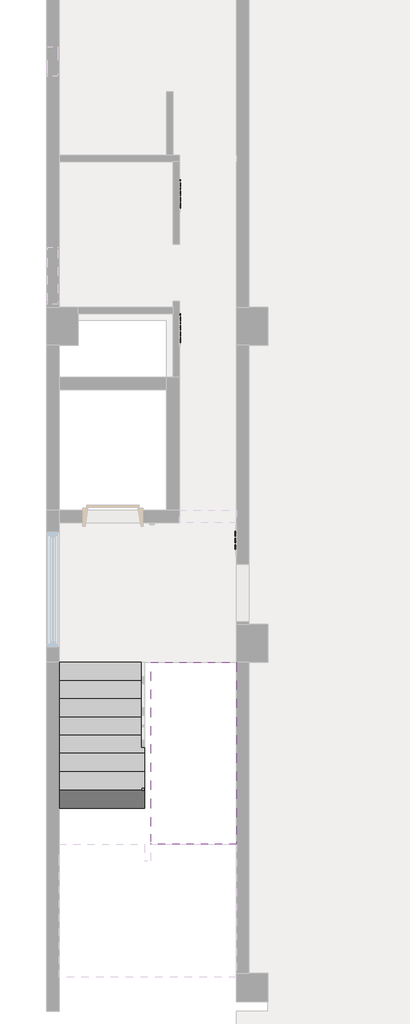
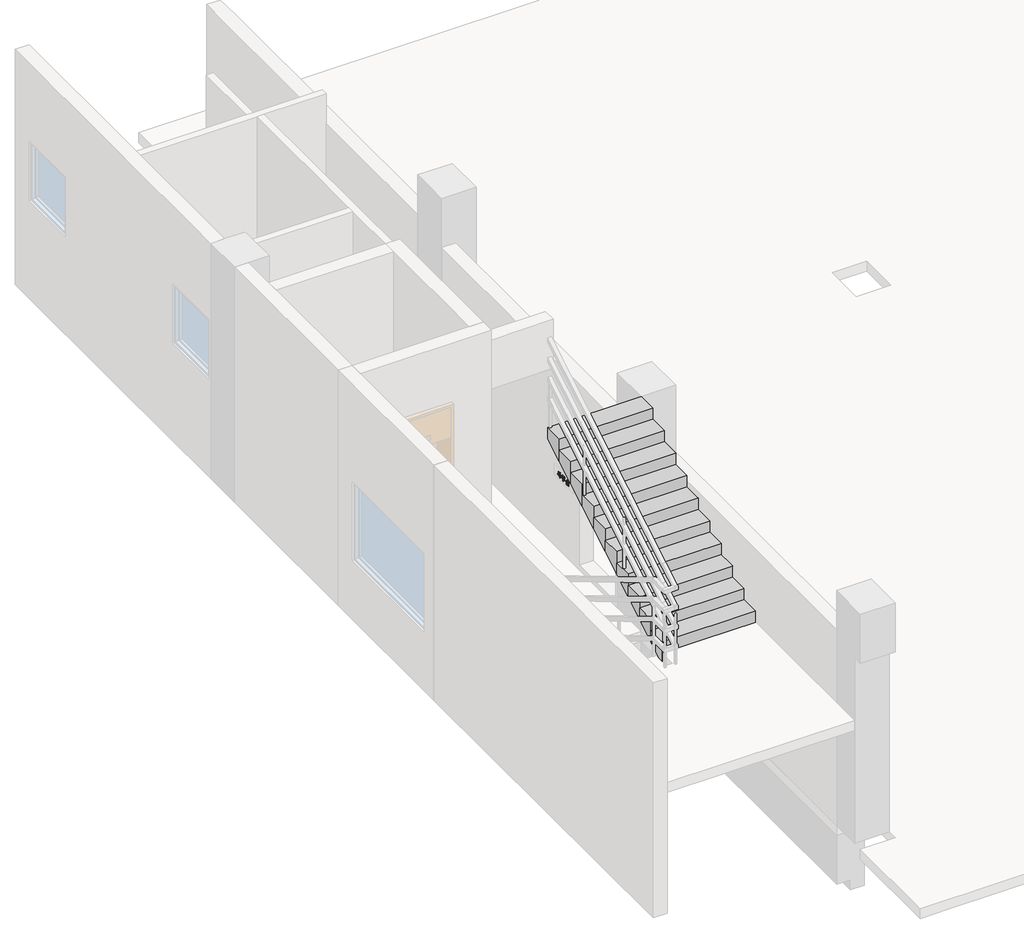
# One storey, part 3 of 3: 3 proxies, 2 stair flights.
"""IFC4 building model written with IfcOpenShell, lengths in millimetres."""

import ifcopenshell
import ifcopenshell.guid

model = None  # the IFC model being written
_history = None  # IfcOwnerHistory: only IFC2X3 demands one
_inside = {}  # id of a spatial element -> (the spatial element, [elements in it])
_under = {}  # id of a project, library or spatial element -> (it, [spatial elements below it])
_declared = {}  # id of a project -> (the project, [libraries it declares])
_typed = {}  # id of a type object -> (the type object, [elements of that type])
_made_of = {}  # id of a material, layer set ... -> (it, [elements and type objects made of it])


def new_model(schema):
    """Start an empty IFC model of exactly this schema.

    Asked for "IFC4X3", IfcOpenShell would pick the latest addendum, in which some entities
    have other attributes; the version numbers below select the first issue.
    IFC2X3 requires an IfcOwnerHistory on every rooted entity: one is made here for all.
    """
    global model, _history
    if schema == "IFC4X3":
        model = ifcopenshell.file(schema_version=(4, 3, 0, 0))
    else:
        model = ifcopenshell.file(schema=schema)
    _inside.clear()
    _under.clear()
    _declared.clear()
    _typed.clear()
    _made_of.clear()
    _history = None
    if model.schema == "IFC2X3":
        org = make("IfcOrganization", Name="unknown")
        user = make(
            "IfcPersonAndOrganization",
            ThePerson=make("IfcPerson", FamilyName="unknown"),
            TheOrganization=org,
        )
        app = make(
            "IfcApplication",
            ApplicationDeveloper=org,
            Version="unknown",
            ApplicationFullName="unknown",
            ApplicationIdentifier="unknown",
        )
        _history = make(
            "IfcOwnerHistory",
            OwningUser=user,
            OwningApplication=app,
            ChangeAction="ADDED",
            CreationDate=0,
        )
    return model


def make(cls, **values):
    """One entity of the class cls with the attributes given. An attribute that is None is left unset."""
    return model.create_entity(
        cls, **{name: value for name, value in values.items() if value is not None}
    )


def rooted(cls, **values):
    """An entity with a GlobalId (a new one), such as an element, a storey or a relation."""
    return make(cls, GlobalId=ifcopenshell.guid.new(), OwnerHistory=_history, **values)


def si_unit(unit_type, name, prefix=None):
    """IfcSIUnit, for example si_unit("LENGTHUNIT", "METRE", prefix="MILLI")."""
    return make("IfcSIUnit", UnitType=unit_type, Prefix=prefix, Name=name)


def assignment(units):
    """IfcUnitAssignment: the units of a project."""
    return None if units is None else make("IfcUnitAssignment", Units=units)


def point(xyz):
    """IfcCartesianPoint."""
    return None if xyz is None else make("IfcCartesianPoint", Coordinates=xyz)


def direction(xyz):
    """IfcDirection."""
    return None if xyz is None else make("IfcDirection", DirectionRatios=xyz)


def frame(location, z_axis=None, x_axis=None):
    """IfcAxis2Placement3D, a coordinate frame: its origin and axes. An axis left out is left unset."""
    return make(
        "IfcAxis2Placement3D",
        Location=point(location),
        Axis=direction(z_axis),
        RefDirection=direction(x_axis),
    )


def origin():
    """The frame at (0, 0, 0) with its axes left unset."""
    return frame((0.0, 0.0, 0.0))


def place(relative_to, where):
    """IfcLocalPlacement: puts the frame where relative to a parent placement (None: the world)."""
    return make(
        "IfcLocalPlacement", PlacementRelTo=relative_to, RelativePlacement=where
    )


def context(
    kind, dimensions, precision=None, world=None, true_north=None, identifier=None
):
    """IfcGeometricRepresentationContext, for example the 3D "Model" context."""
    return make(
        "IfcGeometricRepresentationContext",
        ContextIdentifier=identifier,
        ContextType=kind,
        CoordinateSpaceDimension=dimensions,
        Precision=precision,
        WorldCoordinateSystem=world,
        TrueNorth=true_north,
    )


def project(units=None, contexts=None):
    """IfcProject with its units and contexts."""
    return rooted(
        "IfcProject",
        Name="project",
        RepresentationContexts=contexts,
        UnitsInContext=assignment(units),
    )


def spatial(cls, under=None, at=None, **own):
    """A site, building, storey or space (cls), placed at a placement, below another one or the project."""
    s = rooted(cls, ObjectPlacement=at, **own)
    if under is not None:
        _under.setdefault(under.id(), (under, []))[1].append(s)
    return s


def polyline(points):
    """IfcPolyline through the points."""
    return make("IfcPolyline", Points=[point(p) for p in points])


def outline(outer, holes=None, kind="AREA"):
    """IfcArbitraryClosedProfileDef: a profile drawn as a closed curve; with holes, ...WithVoids."""
    if holes is None:
        return make("IfcArbitraryClosedProfileDef", ProfileType=kind, OuterCurve=outer)
    return make(
        "IfcArbitraryProfileDefWithVoids",
        ProfileType=kind,
        OuterCurve=outer,
        InnerCurves=holes,
    )


def extrude(swept, where, along, depth):
    """IfcExtrudedAreaSolid: the profile swept, set in the frame where, extruded along a direction by depth."""
    return make(
        "IfcExtrudedAreaSolid",
        SweptArea=swept,
        Position=where,
        ExtrudedDirection=direction(along),
        Depth=depth,
    )


def faces_of(points, faces, orient=None, outer=None):
    """IfcFace entities. A face is a list of loops; a loop is a list of indices into points, from 0.

    orient and outer hold one flag for each loop. By default every Orientation is true, the
    first loop of a face is its IfcFaceOuterBound and the others are IfcFaceBound.
    """
    made = []
    for i, loops in enumerate(faces):
        bounds = []
        for j, loop in enumerate(loops):
            is_outer = j == 0 if outer is None else outer[i][j]
            bounds.append(
                make(
                    "IfcFaceOuterBound" if is_outer else "IfcFaceBound",
                    Bound=make("IfcPolyLoop", Polygon=[points[k] for k in loop]),
                    Orientation=True if orient is None else orient[i][j],
                )
            )
        made.append(make("IfcFace", Bounds=bounds))
    return made


def faceted_brep(points, faces, orient=None, outer=None, voids=None):
    """IfcFacetedBrep: a solid bounded by flat faces; with voids (closed shells), ...WithVoids."""
    shared = [point(p) for p in points]
    hull = make("IfcClosedShell", CfsFaces=faces_of(shared, faces, orient, outer))
    if voids is None:
        return make("IfcFacetedBrep", Outer=hull)
    return make(
        "IfcFacetedBrepWithVoids",
        Outer=hull,
        Voids=[
            make(cls, CfsFaces=faces_of(shared, fs, o, b)) for cls, fs, o, b in voids
        ],
    )


def shape(context_of_items, identifier, shape_type, items):
    """IfcShapeRepresentation: the items that make up one representation, for example the "Body"."""
    return make(
        "IfcShapeRepresentation",
        ContextOfItems=context_of_items,
        RepresentationIdentifier=identifier,
        RepresentationType=shape_type,
        Items=items,
    )


def made_of(thing, what):
    """Note that an element or type object is made of a material, layer set ...; save() writes the relation."""
    if what is not None:
        _made_of.setdefault(what.id(), (what, []))[1].append(thing)
    return thing


def element(
    cls,
    number,
    at=None,
    inside=None,
    cuts=None,
    type_object=None,
    material=None,
    context=None,
    identifier="Body",
    shape_type=None,
    held_by="IfcProductDefinitionShape",
    body=None,
    shapes=None,
    **own,
):
    """One element of the class cls, such as IfcWall. Its Tag is "e" and its number.

    at: its placement. inside: the storey or other place that contains it. cuts: it is an
    opening in that element (IfcRelVoidsElement). A single representation is given by context,
    identifier, shape_type and body (its items); several are given by shapes. held_by: the class
    of the entity that holds the representations. save() writes the other relations.
    """
    e = rooted(cls, Tag="e%d" % number, ObjectPlacement=at, **own)
    if body is not None:
        shapes = [shape(context, identifier, shape_type, body)]
    if shapes is not None:
        e.Representation = make(held_by, Representations=shapes)
    if inside is not None:
        _inside.setdefault(inside.id(), (inside, []))[1].append(e)
    if cuts is not None:
        rooted(
            "IfcRelVoidsElement", RelatingBuildingElement=cuts, RelatedOpeningElement=e
        )
    if type_object is not None:
        _typed.setdefault(type_object.id(), (type_object, []))[1].append(e)
    return made_of(e, material)


def aggregate(whole, parts):
    """IfcRelAggregates: a whole, such as a stair, and the parts it consists of."""
    return rooted("IfcRelAggregates", RelatingObject=whole, RelatedObjects=parts)


def save(model, path):
    """Write the relations noted so far, then the file.

    IfcRelAggregates (storeys below a building ...), IfcRelContainedInSpatialStructure (elements
    in a storey), IfcRelDefinesByType, IfcRelAssociatesMaterial and IfcRelDeclares: one each for
    every whole, place, type object, material and project.
    """
    for whole, parts in _under.values():
        aggregate(whole, parts)
    for where, things in _inside.values():
        rooted(
            "IfcRelContainedInSpatialStructure",
            RelatedElements=things,
            RelatingStructure=where,
        )
    for kind, things in _typed.values():
        rooted("IfcRelDefinesByType", RelatedObjects=things, RelatingType=kind)
    for what, things in _made_of.values():
        rooted("IfcRelAssociatesMaterial", RelatedObjects=things, RelatingMaterial=what)
    for by, libraries in _declared.values():
        rooted("IfcRelDeclares", RelatingContext=by, RelatedDefinitions=libraries)
    model.write(path)


model = new_model("IFC4")

# Units and contexts
model_context = context("Model", 3, world=origin())
ifc_project = project(units=[si_unit("LENGTHUNIT", "METRE", prefix="MILLI")], contexts=[model_context])

# Site, building, storey
site = spatial("IfcSite", under=ifc_project)
building = spatial("IfcBuilding", under=site)
storey = spatial("IfcBuildingStorey", under=building, Name="2층", Elevation=3900.0)

# Proxies
placement = place(None, origin())
element("IfcBuildingElementProxy", 1, Name="600 mm Arial", ObjectType="600 mm Arial", at=placement, inside=storey, context=model_context, shape_type="SweptSolid", body=[
    extrude(outline(polyline([(10297.787199, 5117.7990058), (10300.6391665, 5117.0436198), (10301.7028733, 5115.3324394), (10300.7933269, 5113.0508654), (10298.1726, 5111.8792463), (10253.0652656, 5111.8792463), (10249.42708, 5115.3324394), (10253.0652656, 5117.7990058), (10297.787199, 5117.7990058)])), frame((1860.0, 0.0, 0.0), z_axis=(1.0, 0.0, 0.0), x_axis=(0.0, 1.0, 0.0)), (0.0, 0.0, 1.0), 10.0),
    extrude(outline(polyline([(10288.1213416, 5128.6518983), (10291.8366074, 5126.1853318), (10288.3063341, 5122.7321388), (10261.9449049, 5122.7321388), (10258.3067193, 5126.1853318), (10261.9449049, 5128.6518983), (10288.1213416, 5128.6518983)])), frame((1860.0, 0.0, 0.0), z_axis=(1.0, 0.0, 0.0), x_axis=(0.0, 1.0, 0.0)), (0.0, 0.0, 1.0), 10.0),
    extrude(outline(polyline([(10275.711429, 5106.9461133), (10292.0524319, 5102.2133889), (10297.771783, 5091.7921456), (10292.067848, 5080.4151077), (10279.0258777, 5076.3955749), (10279.0258777, 5063.5345434), (10288.8767276, 5064.8140747), (10301.0399835, 5068.4676763), (10305.6031315, 5067.0802327), (10303.5836302, 5062.640413), (10278.9025494, 5057.6147838), (10248.8104384, 5056.6281572), (10245.6501501, 5057.6456159), (10244.4939471, 5060.1275984), (10245.4497416, 5061.869611), (10248.3325412, 5062.5479168), (10258.3837995, 5062.640413), (10271.132865, 5062.9949819), (10271.132865, 5076.7526908), (10258.9696091, 5080.4151077), (10253.3735864, 5091.7921456), (10258.9696091, 5102.2133889), (10275.711429, 5106.9461133)]), holes=[polyline([(10275.711429, 5101.0263538), (10264.5347997, 5098.0356419), (10261.2665991, 5091.7921456), (10264.5502157, 5084.5774386), (10275.711429, 5081.293822), (10286.5643215, 5084.5774386), (10289.8787702, 5091.7921456), (10286.5951536, 5098.051058), (10275.711429, 5101.0263538)])]), frame((1860.0, 0.0, 0.0), z_axis=(1.0, 0.0, 0.0), x_axis=(0.0, 1.0, 0.0)), (0.0, 0.0, 1.0), 10.0),
    extrude(outline(polyline([(10315.5310616, 5093.1333411), (10324.7036057, 5093.1333411), (10327.3243325, 5092.4242032), (10328.3417912, 5090.7130227), (10327.5709892, 5088.3852006), (10325.1815029, 5087.2135815), (10315.5310616, 5087.2135815), (10315.5310616, 5054.4236634), (10314.159034, 5051.6796082), (10311.5383071, 5050.7083977), (10308.8713321, 5051.7104403), (10307.6380489, 5054.5624078), (10307.6380489, 5128.9448031), (10308.8867481, 5130.9488884), (10311.5383071, 5131.6117781), (10314.1282019, 5130.9334723), (10315.5310616, 5129.0218833), (10315.5310616, 5093.1333411)])), frame((1860.0, 0.0, 0.0), z_axis=(1.0, 0.0, 0.0), x_axis=(0.0, 1.0, 0.0)), (0.0, 0.0, 1.0), 10.0),
    extrude(outline(polyline([(10414.1937206, 5108.9193665), (10423.3662647, 5108.9193665), (10425.9869916, 5108.2410607), (10427.0044502, 5106.4990482), (10426.2182322, 5104.1249779), (10423.7516657, 5102.999607), (10414.1937206, 5102.999607), (10414.1937206, 5085.0861679), (10412.821693, 5082.1879523), (10410.2009661, 5081.293822), (10407.5339911, 5082.1879523), (10406.3007079, 5085.1478321), (10406.3007079, 5129.0372993), (10410.2009661, 5131.6117781), (10414.1937206, 5129.1760437), (10414.1937206, 5108.9193665)])), frame((1860.0, 0.0, 0.0), z_axis=(1.0, 0.0, 0.0), x_axis=(0.0, 1.0, 0.0)), (0.0, 0.0, 1.0), 10.0),
    extrude(outline(polyline([(10383.6545444, 5080.3071954), (10407.2873345, 5076.0832003), (10413.207094, 5071.4699502), (10415.1803472, 5065.8623655), (10413.207094, 5059.7460514), (10407.2873345, 5055.024889), (10383.6545444, 5050.7083977), (10359.9138421, 5055.024889), (10354.0056446, 5059.7383434), (10352.0362454, 5065.8623655), (10354.0056446, 5071.4699502), (10359.9138421, 5076.0832003), (10383.6545444, 5080.3071954)]), holes=[polyline([(10383.6545444, 5074.3874359), (10365.1707119, 5071.8437892), (10359.9292581, 5065.9086136), (10365.1707119, 5059.3259643), (10383.6545444, 5056.6281572), (10401.9379684, 5059.3259643), (10407.2873345, 5065.9086136), (10401.9379684, 5071.8437892), (10383.6545444, 5074.3874359)])]), frame((1860.0, 0.0, 0.0), z_axis=(1.0, 0.0, 0.0), x_axis=(0.0, 1.0, 0.0)), (0.0, 0.0, 1.0), 10.0),
    extrude(outline(polyline([(10395.5865598, 5129.6385249), (10398.9626726, 5127.2182066), (10395.5865598, 5123.7187654), (10377.6885368, 5123.7187654), (10377.6885368, 5121.7609282), (10379.3804472, 5112.3802676), (10384.4561785, 5104.6182912), (10399.1784972, 5095.1065943), (10401.382991, 5093.6112383), (10401.1363343, 5091.1138398), (10398.8855924, 5089.2484989), (10395.5248956, 5089.4643234), (10381.4038025, 5098.1898023), (10373.603286, 5109.3201836), (10366.2035866, 5097.6348249), (10351.1883632, 5088.2156242), (10348.2593155, 5088.3543685), (10346.2398142, 5090.2351255), (10345.9931576, 5092.6091957), (10348.1976513, 5094.1199677), (10363.4595314, 5104.2791383), (10368.2115259, 5112.0642388), (10369.795524, 5121.5451037), (10369.795524, 5123.7187654), (10351.8975011, 5123.7187654), (10348.3363957, 5127.2182066), (10351.9899973, 5129.6385249), (10395.5865598, 5129.6385249)])), frame((1860.0, 0.0, 0.0), z_axis=(1.0, 0.0, 0.0), x_axis=(0.0, 1.0, 0.0)), (0.0, 0.0, 1.0), 10.0),
    extrude(outline(polyline([(10515.8162594, 5092.8404363), (10514.4442318, 5090.065549), (10511.869753, 5089.1868347), (10509.1565299, 5090.0809651), (10507.9232467, 5092.8404363), (10507.9232467, 5128.9448031), (10509.1565299, 5130.9488884), (10511.869753, 5131.6117781), (10514.4288158, 5130.9488884), (10515.8162594, 5129.0527154), (10515.8162594, 5092.8404363)])), frame((1860.0, 0.0, 0.0), z_axis=(1.0, 0.0, 0.0), x_axis=(0.0, 1.0, 0.0)), (0.0, 0.0, 1.0), 10.0),
    extrude(outline(polyline([(10506.150402, 5085.2403284), (10513.2571967, 5083.3441554), (10515.8162594, 5078.1181177), (10515.8162594, 5074.0328669), (10513.365109, 5068.5293405), (10507.1986928, 5066.4944231), (10462.0296942, 5066.4944231), (10459.9639448, 5066.0011098), (10459.5785438, 5064.2590973), (10459.5785438, 5060.3280069), (10460.0256089, 5058.2160094), (10461.9063659, 5057.6147838), (10513.8738383, 5057.6147838), (10517.7740965, 5055.1944655), (10516.8799662, 5052.8049792), (10514.2438233, 5051.6950243), (10459.9947769, 5051.6950243), (10454.0904334, 5053.8378539), (10451.685531, 5059.6805332), (10451.685531, 5065.4153003), (10453.9979371, 5070.5334257), (10459.8406165, 5072.4141827), (10505.2871038, 5072.4141827), (10507.3528532, 5072.9691601), (10507.9232467, 5074.834501), (10507.9232467, 5077.3318996), (10507.4607655, 5078.8580876), (10505.2100236, 5079.3205688), (10455.5241251, 5079.3205688), (10451.685531, 5082.7891779), (10455.5395412, 5085.2403284), (10506.150402, 5085.2403284)])), frame((1860.0, 0.0, 0.0), z_axis=(1.0, 0.0, 0.0), x_axis=(0.0, 1.0, 0.0)), (0.0, 0.0, 1.0), 10.0),
    extrude(outline(polyline([(10465.4983033, 5126.7865574), (10466.7624186, 5128.9756352), (10469.3985615, 5129.6385249), (10472.0038724, 5128.9756352), (10473.391316, 5126.7865574), (10472.63593, 5121.0826225), (10470.9555816, 5115.6407602), (10484.5062812, 5106.4682161), (10495.1433491, 5094.3666243), (10495.8987351, 5092.2083786), (10494.4342113, 5089.7263961), (10491.7364042, 5089.0789224), (10488.9461009, 5090.7901029), (10479.3573237, 5102.0283964), (10468.5506793, 5110.1526498), (10461.1201478, 5099.2380931), (10449.1573004, 5088.0306317), (10446.1049244, 5087.2598297), (10443.8233504, 5088.7089375), (10443.1758767, 5091.206336), (10445.1491299, 5093.117925), (10460.7501628, 5110.8463716), (10465.4983033, 5126.7865574)])), frame((1860.0, 0.0, 0.0), z_axis=(1.0, 0.0, 0.0), x_axis=(0.0, 1.0, 0.0)), (0.0, 0.0, 1.0), 10.0),
    extrude(outline(polyline([(10556.6225185, 5135.2345476), (10559.3665737, 5136.4678308), (10562.0797969, 5135.9899336), (10563.7601453, 5134.2787531), (10563.1435037, 5131.3497054), (10553.4313982, 5112.4804719), (10550.3481901, 5091.6379851), (10553.1539094, 5070.2713531), (10562.9893433, 5051.957097), (10564.0684661, 5049.290122), (10562.6810224, 5046.5460668), (10559.7673908, 5045.5286081), (10556.6995987, 5047.2089565), (10545.5846336, 5067.8818668), (10542.4551773, 5091.6379851), (10545.7850421, 5114.052908), (10556.6225185, 5135.2345476)])), frame((1860.0, 0.0, 0.0), z_axis=(1.0, 0.0, 0.0), x_axis=(0.0, 1.0, 0.0)), (0.0, 0.0, 1.0), 10.0),
    extrude(outline(polyline([(10604.7513969, 5128.6518983), (10614.5598527, 5126.0350255), (10621.7552895, 5118.1844068), (10625.3973917, 5108.5766763), (10626.4263498, 5110.2143139), (10629.4324777, 5110.8926197), (10644.0777161, 5110.8926197), (10644.0777161, 5128.8060587), (10645.2955833, 5130.8563921), (10648.0242225, 5131.6117781), (10650.6141173, 5130.9488884), (10651.9707289, 5128.8368908), (10651.9707289, 5054.6549041), (10650.6449494, 5051.7258564), (10648.0242225, 5050.7083977), (10645.2647513, 5051.7412724), (10644.0777161, 5054.6857361), (10644.0777161, 5078.3339422), (10629.2629013, 5078.3339422), (10625.8552008, 5080.4777179), (10621.7552895, 5069.6547114), (10614.4211083, 5061.3647357), (10604.7513969, 5058.6014104), (10594.9082551, 5061.3647357), (10587.4545995, 5069.6547114), (10583.3038306, 5080.6270782), (10581.920241, 5094.0274714), (10583.3038306, 5107.2197481), (10587.4545995, 5118.1844068), (10594.7695107, 5126.0350255), (10604.7513969, 5128.6518983)]), holes=[polyline([(10626.2062694, 5083.4271544), (10629.2629013, 5084.2537018), (10644.0777161, 5084.2537018), (10644.0777161, 5104.9728602), (10629.5249739, 5104.9728602), (10625.9314286, 5107.0731936), (10627.3050641, 5094.0274714), (10626.2062694, 5083.4271544)]), polyline([(10604.7051488, 5122.7321388), (10598.4115503, 5120.6432653), (10593.6210157, 5114.3766448), (10589.8132537, 5094.0737195), (10593.6210157, 5073.5241376), (10598.5425866, 5066.7719119), (10604.7051488, 5064.52117), (10610.7174046, 5066.7719119), (10615.5888734, 5073.5241376), (10619.4120514, 5094.0737195), (10615.5888734, 5114.3766448), (10610.8484409, 5120.6432653), (10604.7051488, 5122.7321388)])]), frame((1860.0, 0.0, 0.0), z_axis=(1.0, 0.0, 0.0), x_axis=(0.0, 1.0, 0.0)), (0.0, 0.0, 1.0), 10.0),
    extrude(outline(polyline([(10683.1265467, 5135.2345476), (10693.902359, 5114.052908), (10697.355552, 5091.6379851), (10694.1027675, 5067.8818668), (10683.0802985, 5047.2089565), (10679.9200102, 5045.5286081), (10676.9909626, 5046.5460668), (10675.618935, 5049.290122), (10676.8059701, 5051.957097), (10686.5334916, 5070.2713531), (10689.4625393, 5091.6379851), (10686.2560029, 5112.4804719), (10676.6363936, 5131.3342894), (10675.9118397, 5134.2787531), (10677.6076042, 5135.9899336), (10680.2899952, 5136.4678308), (10683.1265467, 5135.2345476)])), frame((1860.0, 0.0, 0.0), z_axis=(1.0, 0.0, 0.0), x_axis=(0.0, 1.0, 0.0)), (0.0, 0.0, 1.0), 10.0),
])
element("IfcBuildingElementProxy", 2, Name="600 mm Arial", ObjectType="600 mm Arial", at=placement, inside=storey, context=model_context, shape_type="SweptSolid", body=[
    extrude(outline(polyline([(12417.787199, 5117.7990058), (12420.6391665, 5117.0436198), (12421.7028733, 5115.3324394), (12420.7933269, 5113.0508654), (12418.1726, 5111.8792463), (12373.0652656, 5111.8792463), (12369.42708, 5115.3324394), (12373.0652656, 5117.7990058), (12417.787199, 5117.7990058)])), frame((1860.0, 0.0, 0.0), z_axis=(1.0, 0.0, 0.0), x_axis=(0.0, 1.0, 0.0)), (0.0, 0.0, 1.0), 10.0),
    extrude(outline(polyline([(12408.1213416, 5128.6518983), (12411.8366074, 5126.1853318), (12408.3063341, 5122.7321388), (12381.9449049, 5122.7321388), (12378.3067193, 5126.1853318), (12381.9449049, 5128.6518983), (12408.1213416, 5128.6518983)])), frame((1860.0, 0.0, 0.0), z_axis=(1.0, 0.0, 0.0), x_axis=(0.0, 1.0, 0.0)), (0.0, 0.0, 1.0), 10.0),
    extrude(outline(polyline([(12395.711429, 5106.9461133), (12412.0524319, 5102.2133889), (12417.771783, 5091.7921456), (12412.067848, 5080.4151077), (12399.0258777, 5076.3955749), (12399.0258777, 5063.5345434), (12408.8767276, 5064.8140747), (12421.0399835, 5068.4676763), (12425.6031315, 5067.0802327), (12423.5836302, 5062.640413), (12398.9025494, 5057.6147838), (12368.8104384, 5056.6281572), (12365.6501501, 5057.6456159), (12364.4939471, 5060.1275984), (12365.4497416, 5061.869611), (12368.3325412, 5062.5479168), (12378.3837995, 5062.640413), (12391.132865, 5062.9949819), (12391.132865, 5076.7526908), (12378.9696091, 5080.4151077), (12373.3735864, 5091.7921456), (12378.9696091, 5102.2133889), (12395.711429, 5106.9461133)]), holes=[polyline([(12395.711429, 5101.0263538), (12384.5347997, 5098.0356419), (12381.2665991, 5091.7921456), (12384.5502157, 5084.5774386), (12395.711429, 5081.293822), (12406.5643215, 5084.5774386), (12409.8787702, 5091.7921456), (12406.5951536, 5098.051058), (12395.711429, 5101.0263538)])]), frame((1860.0, 0.0, 0.0), z_axis=(1.0, 0.0, 0.0), x_axis=(0.0, 1.0, 0.0)), (0.0, 0.0, 1.0), 10.0),
    extrude(outline(polyline([(12435.5310616, 5093.1333411), (12444.7036057, 5093.1333411), (12447.3243325, 5092.4242032), (12448.3417912, 5090.7130227), (12447.5709892, 5088.3852006), (12445.1815029, 5087.2135815), (12435.5310616, 5087.2135815), (12435.5310616, 5054.4236634), (12434.159034, 5051.6796082), (12431.5383071, 5050.7083977), (12428.8713321, 5051.7104403), (12427.6380489, 5054.5624078), (12427.6380489, 5128.9448031), (12428.8867481, 5130.9488884), (12431.5383071, 5131.6117781), (12434.1282019, 5130.9334723), (12435.5310616, 5129.0218833), (12435.5310616, 5093.1333411)])), frame((1860.0, 0.0, 0.0), z_axis=(1.0, 0.0, 0.0), x_axis=(0.0, 1.0, 0.0)), (0.0, 0.0, 1.0), 10.0),
    extrude(outline(polyline([(12534.1937206, 5108.9193665), (12543.3662647, 5108.9193665), (12545.9869916, 5108.2410607), (12547.0044502, 5106.4990482), (12546.2182322, 5104.1249779), (12543.7516657, 5102.999607), (12534.1937206, 5102.999607), (12534.1937206, 5085.0861679), (12532.821693, 5082.1879523), (12530.2009661, 5081.293822), (12527.5339911, 5082.1879523), (12526.3007079, 5085.1478321), (12526.3007079, 5129.0372993), (12530.2009661, 5131.6117781), (12534.1937206, 5129.1760437), (12534.1937206, 5108.9193665)])), frame((1860.0, 0.0, 0.0), z_axis=(1.0, 0.0, 0.0), x_axis=(0.0, 1.0, 0.0)), (0.0, 0.0, 1.0), 10.0),
    extrude(outline(polyline([(12503.6545444, 5080.3071954), (12527.2873345, 5076.0832003), (12533.207094, 5071.4699502), (12535.1803472, 5065.8623655), (12533.207094, 5059.7460514), (12527.2873345, 5055.024889), (12503.6545444, 5050.7083977), (12479.9138421, 5055.024889), (12474.0056446, 5059.7383434), (12472.0362454, 5065.8623655), (12474.0056446, 5071.4699502), (12479.9138421, 5076.0832003), (12503.6545444, 5080.3071954)]), holes=[polyline([(12503.6545444, 5074.3874359), (12485.1707119, 5071.8437892), (12479.9292581, 5065.9086136), (12485.1707119, 5059.3259643), (12503.6545444, 5056.6281572), (12521.9379684, 5059.3259643), (12527.2873345, 5065.9086136), (12521.9379684, 5071.8437892), (12503.6545444, 5074.3874359)])]), frame((1860.0, 0.0, 0.0), z_axis=(1.0, 0.0, 0.0), x_axis=(0.0, 1.0, 0.0)), (0.0, 0.0, 1.0), 10.0),
    extrude(outline(polyline([(12515.5865598, 5129.6385249), (12518.9626726, 5127.2182066), (12515.5865598, 5123.7187654), (12497.6885368, 5123.7187654), (12497.6885368, 5121.7609282), (12499.3804472, 5112.3802676), (12504.4561785, 5104.6182912), (12519.1784972, 5095.1065943), (12521.382991, 5093.6112383), (12521.1363343, 5091.1138398), (12518.8855924, 5089.2484989), (12515.5248956, 5089.4643234), (12501.4038025, 5098.1898023), (12493.603286, 5109.3201836), (12486.2035866, 5097.6348249), (12471.1883632, 5088.2156242), (12468.2593155, 5088.3543685), (12466.2398142, 5090.2351255), (12465.9931576, 5092.6091957), (12468.1976513, 5094.1199677), (12483.4595314, 5104.2791383), (12488.2115259, 5112.0642388), (12489.795524, 5121.5451037), (12489.795524, 5123.7187654), (12471.8975011, 5123.7187654), (12468.3363957, 5127.2182066), (12471.9899973, 5129.6385249), (12515.5865598, 5129.6385249)])), frame((1860.0, 0.0, 0.0), z_axis=(1.0, 0.0, 0.0), x_axis=(0.0, 1.0, 0.0)), (0.0, 0.0, 1.0), 10.0),
    extrude(outline(polyline([(12635.8162594, 5092.8404363), (12634.4442318, 5090.065549), (12631.869753, 5089.1868347), (12629.1565299, 5090.0809651), (12627.9232467, 5092.8404363), (12627.9232467, 5128.9448031), (12629.1565299, 5130.9488884), (12631.869753, 5131.6117781), (12634.4288158, 5130.9488884), (12635.8162594, 5129.0527154), (12635.8162594, 5092.8404363)])), frame((1860.0, 0.0, 0.0), z_axis=(1.0, 0.0, 0.0), x_axis=(0.0, 1.0, 0.0)), (0.0, 0.0, 1.0), 10.0),
    extrude(outline(polyline([(12626.150402, 5085.2403284), (12633.2571967, 5083.3441554), (12635.8162594, 5078.1181177), (12635.8162594, 5074.0328669), (12633.365109, 5068.5293405), (12627.1986928, 5066.4944231), (12582.0296942, 5066.4944231), (12579.9639448, 5066.0011098), (12579.5785438, 5064.2590973), (12579.5785438, 5060.3280069), (12580.0256089, 5058.2160094), (12581.9063659, 5057.6147838), (12633.8738383, 5057.6147838), (12637.7740965, 5055.1944655), (12636.8799662, 5052.8049792), (12634.2438233, 5051.6950243), (12579.9947769, 5051.6950243), (12574.0904334, 5053.8378539), (12571.685531, 5059.6805332), (12571.685531, 5065.4153003), (12573.9979371, 5070.5334257), (12579.8406165, 5072.4141827), (12625.2871038, 5072.4141827), (12627.3528532, 5072.9691601), (12627.9232467, 5074.834501), (12627.9232467, 5077.3318996), (12627.4607655, 5078.8580876), (12625.2100236, 5079.3205688), (12575.5241251, 5079.3205688), (12571.685531, 5082.7891779), (12575.5395412, 5085.2403284), (12626.150402, 5085.2403284)])), frame((1860.0, 0.0, 0.0), z_axis=(1.0, 0.0, 0.0), x_axis=(0.0, 1.0, 0.0)), (0.0, 0.0, 1.0), 10.0),
    extrude(outline(polyline([(12585.4983033, 5126.7865574), (12586.7624186, 5128.9756352), (12589.3985615, 5129.6385249), (12592.0038724, 5128.9756352), (12593.391316, 5126.7865574), (12592.63593, 5121.0826225), (12590.9555816, 5115.6407602), (12604.5062812, 5106.4682161), (12615.1433491, 5094.3666243), (12615.8987351, 5092.2083786), (12614.4342113, 5089.7263961), (12611.7364042, 5089.0789224), (12608.9461009, 5090.7901029), (12599.3573237, 5102.0283964), (12588.5506793, 5110.1526498), (12581.1201478, 5099.2380931), (12569.1573004, 5088.0306317), (12566.1049244, 5087.2598297), (12563.8233504, 5088.7089375), (12563.1758767, 5091.206336), (12565.1491299, 5093.117925), (12580.7501628, 5110.8463716), (12585.4983033, 5126.7865574)])), frame((1860.0, 0.0, 0.0), z_axis=(1.0, 0.0, 0.0), x_axis=(0.0, 1.0, 0.0)), (0.0, 0.0, 1.0), 10.0),
    extrude(outline(polyline([(12676.6225185, 5135.2345476), (12679.3665737, 5136.4678308), (12682.0797969, 5135.9899336), (12683.7601453, 5134.2787531), (12683.1435037, 5131.3497054), (12673.4313982, 5112.4804719), (12670.3481901, 5091.6379851), (12673.1539094, 5070.2713531), (12682.9893433, 5051.957097), (12684.0684661, 5049.290122), (12682.6810224, 5046.5460668), (12679.7673908, 5045.5286081), (12676.6995987, 5047.2089565), (12665.5846336, 5067.8818668), (12662.4551773, 5091.6379851), (12665.7850421, 5114.052908), (12676.6225185, 5135.2345476)])), frame((1860.0, 0.0, 0.0), z_axis=(1.0, 0.0, 0.0), x_axis=(0.0, 1.0, 0.0)), (0.0, 0.0, 1.0), 10.0),
    extrude(outline(polyline([(12702.9068676, 5126.8019735), (12704.1401508, 5128.8831389), (12706.8071258, 5129.6385249), (12709.4124366, 5128.9756352), (12710.7998803, 5126.8944697), (12710.7998803, 5102.5525418), (12711.9406673, 5098.4981232), (12715.7792613, 5097.0798474), (12734.3710062, 5097.7581532), (12752.1919489, 5099.9934791), (12755.4909816, 5099.947231), (12757.1250819, 5098.451875), (12756.8321771, 5096.0161406), (12754.3193625, 5094.1507997), (12735.3730488, 5091.8538097), (12713.75976, 5091.1600879), (12705.758835, 5094.4899526), (12702.9068676, 5102.4446295), (12702.9068676, 5126.8019735)])), frame((1860.0, 0.0, 0.0), z_axis=(1.0, 0.0, 0.0), x_axis=(0.0, 1.0, 0.0)), (0.0, 0.0, 1.0), 10.0),
    extrude(outline(polyline([(12769.0108491, 5108.9193665), (12778.3838017, 5108.9193665), (12781.8369948, 5106.4990482), (12778.3838017, 5102.999607), (12769.0108491, 5102.999607), (12769.0108491, 5091.0675917), (12767.6542375, 5088.2002081), (12765.0180946, 5087.2135815), (12762.3511196, 5088.2002081), (12761.1178364, 5091.0367596), (12761.1178364, 5129.0527154), (12765.0180946, 5131.6117781), (12769.0108491, 5129.0835475), (12769.0108491, 5108.9193665)])), frame((1860.0, 0.0, 0.0), z_axis=(1.0, 0.0, 0.0), x_axis=(0.0, 1.0, 0.0)), (0.0, 0.0, 1.0), 10.0),
    extrude(outline(polyline([(12759.3912398, 5081.293822), (12766.3284581, 5079.4593132), (12769.0108491, 5074.5570123), (12769.0108491, 5061.0833929), (12766.3592901, 5054.7319843), (12759.7766409, 5052.6816509), (12717.8450108, 5052.6816509), (12710.1369905, 5055.0557211), (12707.8400005, 5061.5612902), (12707.8400005, 5074.1716113), (12710.2449028, 5079.2743207), (12716.5963115, 5081.293822), (12759.3912398, 5081.293822)]), holes=[polyline([(12761.1178364, 5073.0924885), (12760.4703627, 5074.8807492), (12757.8342198, 5075.3740624), (12718.6312288, 5075.3740624), (12716.1646624, 5074.7728369), (12715.7330132, 5072.907496), (12715.7330132, 5062.0546035), (12716.3188228, 5059.3722124), (12719.0166298, 5058.6014104), (12758.0192122, 5058.6014104), (12760.4703627, 5059.2797162), (12761.1178364, 5061.6692025), (12761.1178364, 5073.0924885)])]), frame((1860.0, 0.0, 0.0), z_axis=(1.0, 0.0, 0.0), x_axis=(0.0, 1.0, 0.0)), (0.0, 0.0, 1.0), 10.0),
    extrude(outline(polyline([(12803.1265467, 5135.2345476), (12813.902359, 5114.052908), (12817.355552, 5091.6379851), (12814.1027675, 5067.8818668), (12803.0802985, 5047.2089565), (12799.9200102, 5045.5286081), (12796.9909626, 5046.5460668), (12795.618935, 5049.290122), (12796.8059701, 5051.957097), (12806.5334916, 5070.2713531), (12809.4625393, 5091.6379851), (12806.2560029, 5112.4804719), (12796.6363936, 5131.3342894), (12795.9118397, 5134.2787531), (12797.6076042, 5135.9899336), (12800.2899952, 5136.4678308), (12803.1265467, 5135.2345476)])), frame((1860.0, 0.0, 0.0), z_axis=(1.0, 0.0, 0.0), x_axis=(0.0, 1.0, 0.0)), (0.0, 0.0, 1.0), 10.0),
])
element("IfcBuildingElementProxy", 3, Name="600 mm Arial", ObjectType="600 mm Arial", at=placement, inside=storey, context=model_context, shape_type="SweptSolid", body=[
    extrude(outline(polyline([(7188.5637707, 5086.2433766), (7189.7662218, 5092.1477201), (7201.4361645, 5092.1477201), (7202.5615354, 5122.7331444), (7211.3178464, 5121.6540216), (7210.1924755, 5043.8030172), (7201.4361645, 5044.9129721), (7201.4361645, 5085.241334), (7188.5637707, 5086.2433766)])), frame((2730.0, 0.0, 0.0), z_axis=(1.0, 0.0, 0.0), x_axis=(0.0, 1.0, 0.0)), (0.0, 0.0, 1.0), 10.0),
    extrude(outline(polyline([(7258.8609152, 5062.5489224), (7254.189855, 5067.0581142), (7249.5958749, 5072.7235091), (7245.3872959, 5079.2059541), (7241.8724386, 5086.2433766), (7238.951099, 5080.5163176), (7235.0508407, 5074.7584264), (7230.6264371, 5069.5555128), (7226.2405736, 5065.5088022), (7223.4965184, 5065.6783786), (7219.8891649, 5069.8715416), (7220.0741574, 5072.4151883), (7225.6085159, 5077.4562335), (7230.7960135, 5083.9078465), (7234.9968846, 5091.2073416), (7237.6638596, 5098.7920335), (7236.5461966, 5107.5020964), (7237.3247067, 5118.5245654), (7246.1580979, 5117.5071067), (7246.2505941, 5110.3386479), (7246.8518197, 5103.8176627), (7248.0080227, 5097.6358305), (7249.7654514, 5091.5002464), (7256.11686, 5079.5913551), (7265.643973, 5069.4553085), (7265.9060457, 5066.6341731), (7261.8670431, 5062.6414186), (7258.8609152, 5062.5489224)])), frame((2730.0, 0.0, 0.0), z_axis=(1.0, 0.0, 0.0), x_axis=(0.0, 1.0, 0.0)), (0.0, 0.0, 1.0), 10.0),
    extrude(outline(polyline([(7085.1838033, 5073.5713913), (7086.4787507, 5079.3215744), (7162.4335821, 5078.2424516), (7161.2311309, 5072.4151883), (7128.6107893, 5072.4151883), (7128.6107893, 5045.0208844), (7127.4083381, 5043.8030172), (7119.9469745, 5043.8030172), (7118.7445234, 5045.0208844), (7118.7445234, 5072.4151883), (7085.1838033, 5073.5713913)])), frame((2730.0, 0.0, 0.0), z_axis=(1.0, 0.0, 0.0), x_axis=(0.0, 1.0, 0.0)), (0.0, 0.0, 1.0), 10.0),
    extrude(outline(polyline([(7096.6841695, 5095.2309282), (7096.6841695, 5116.6900565), (7098.017657, 5121.438197), (7103.2051546, 5122.7331444), (7144.9209601, 5122.7331444), (7149.6074364, 5121.3996569), (7151.0257121, 5116.7825528), (7151.0257121, 5095.3080084), (7149.6922246, 5090.567576), (7144.489311, 5089.1878403), (7102.7735054, 5089.1878403), (7098.1024452, 5090.567576), (7096.6841695, 5095.2309282)]), holes=[polyline([(7106.5504354, 5114.5318109), (7107.6758063, 5096.0942265), (7141.06695, 5097.4970861), (7139.941579, 5115.8267583), (7106.5504354, 5114.5318109)])]), frame((2730.0, 0.0, 0.0), z_axis=(1.0, 0.0, 0.0), x_axis=(0.0, 1.0, 0.0)), (0.0, 0.0, 1.0), 10.0),
    extrude(outline(polyline([(6987.2919463, 5044.8513079), (6988.4943974, 5050.7094033), (7030.0406265, 5051.9426865), (7029.0077518, 5057.6157894), (6995.3699515, 5057.6157894), (6990.6834752, 5058.6640802), (6989.5272721, 5062.5489224), (6989.5272721, 5072.3381081), (6990.6834752, 5076.2152423), (6995.3699515, 5077.3483212), (7039.9068924, 5076.3000305), (7038.7198573, 5070.4419351), (6999.1468814, 5069.1007396), (7000.1797561, 5064.5221756), (7034.0796291, 5064.5221756), (7038.5811129, 5063.2966004), (7039.7373159, 5059.357802), (7039.7373159, 5049.0444709), (7038.5348648, 5045.0748405), (7033.9871328, 5043.8030172), (6987.2919463, 5044.8513079)])), frame((2730.0, 0.0, 0.0), z_axis=(1.0, 0.0, 0.0), x_axis=(0.0, 1.0, 0.0)), (0.0, 0.0, 1.0), 10.0),
    extrude(outline(polyline([(7049.0948525, 5081.2948276), (7038.6736091, 5088.5557827), (7031.0735012, 5098.1291438), (7023.388605, 5090.0203065), (7013.8229519, 5084.2547074), (7011.587626, 5084.886765), (7008.6739944, 5089.1724243), (7009.1827237, 5091.1610935), (7014.0310685, 5093.6893241), (7018.9719094, 5097.2889696), (7023.5196414, 5101.8521176), (7027.1269948, 5107.0704473), (7025.9245437, 5113.2908196), (7025.4928945, 5120.1124175), (7026.6028495, 5121.4073649), (7035.3591604, 5120.4669865), (7039.9993886, 5101.1198557), (7055.2766847, 5085.7192312), (7051.8389077, 5081.3873239), (7049.0948525, 5081.2948276)])), frame((2730.0, 0.0, 0.0), z_axis=(1.0, 0.0, 0.0), x_axis=(0.0, 1.0, 0.0)), (0.0, 0.0, 1.0), 10.0),
    extrude(outline(polyline([(6989.5272721, 5082.3739504), (6990.637227, 5122.7331444), (6999.393538, 5121.6540216), (6999.393538, 5082.4664467), (6998.2835831, 5081.2948276), (6989.5272721, 5082.3739504)])), frame((2730.0, 0.0, 0.0), z_axis=(1.0, 0.0, 0.0), x_axis=(0.0, 1.0, 0.0)), (0.0, 0.0, 1.0), 10.0),
])

# Stair flights
element("IfcStairFlight", 4, ObjectType="일체형 계단진행 150mm_철근콘크리트", at=placement, inside=storey, context=model_context, shape_type="Brep", body=[
    faceted_brep([(1300.2430136, 4912.8571429, 4071.4285714), (1300.2430136, 5200.0, 4071.4285714), (-50.0, 5200.0, 4071.4285714), (-50.0, 4912.8571429, 4071.4285714), (1300.2430136, 4912.8571429, 3900.0), (1300.2430136, 5200.0, 3900.0), (-50.0, 5200.0, 3900.0), (-50.0, 4912.8571429, 3900.0), (1300.2430136, 4625.7142857, 4242.8571429), (1300.2430136, 4912.8571429, 4242.8571429), (-50.0, 4912.8571429, 4242.8571429), (-50.0, 4625.7142857, 4242.8571429), (1300.2430136, 4625.7142857, 4068.1585353), (1300.2430136, 4907.3798324, 3900.0), (-50.0, 4907.3798324, 3900.0), (-50.0, 4625.7142857, 4068.1585353), (1300.2430136, 4338.5714286, 4414.2857143), (1300.2430136, 4625.7142857, 4414.2857143), (-50.0, 4625.7142857, 4414.2857143), (-50.0, 4338.5714286, 4414.2857143), (1300.2430136, 4338.5714286, 4239.5871067), (-50.0, 4338.5714286, 4239.5871067), (1300.2430136, 4051.4285714, 4585.7142857), (1300.2430136, 4338.5714286, 4585.7142857), (-50.0, 4338.5714286, 4585.7142857), (-50.0, 4051.4285714, 4585.7142857), (1300.2430136, 4051.4285714, 4411.0156782), (-50.0, 4051.4285714, 4411.0156782), (1300.2430136, 3764.2857143, 4757.1428571), (1300.2430136, 4051.4285714, 4757.1428571), (-50.0, 4051.4285714, 4757.1428571), (-50.0, 3764.2857143, 4757.1428571), (1300.2430136, 3764.2857143, 4582.4442496), (-50.0, 3764.2857143, 4582.4442496), (1300.2430136, 3477.1428571, 4928.5714286), (1300.2430136, 3764.2857143, 4928.5714286), (-50.0, 3764.2857143, 4928.5714286), (-50.0, 3477.1428571, 4928.5714286), (1300.2430136, 3477.1428571, 4753.872821), (-50.0, 3477.1428571, 4753.872821), (1300.2430136, 3190.0, 5100.0), (1300.2430136, 3477.1428571, 5100.0), (-50.0, 3477.1428571, 5100.0), (-50.0, 3190.0, 5100.0), (1300.2430136, 3190.0, 4925.3013925), (-50.0, 3190.0, 4925.3013925), (1300.2430136, 2902.8571429, 5271.4285714), (1300.2430136, 3190.0, 5271.4285714), (-50.0, 3190.0, 5271.4285714), (-50.0, 2902.8571429, 5271.4285714), (1300.2430136, 2902.8571429, 5096.7299639), (-50.0, 2902.8571429, 5096.7299639), (1300.2430136, 2615.7142857, 5442.8571429), (1300.2430136, 2902.8571429, 5442.8571429), (-50.0, 2902.8571429, 5442.8571429), (-50.0, 2615.7142857, 5442.8571429), (1300.2430136, 2615.7142857, 5268.1585353), (-50.0, 2615.7142857, 5268.1585353), (1300.2430136, 2328.5714286, 5614.2857143), (1300.2430136, 2615.7142857, 5614.2857143), (-50.0, 2615.7142857, 5614.2857143), (-50.0, 2328.5714286, 5614.2857143), (1300.2430136, 2328.5714286, 5439.5871067), (-50.0, 2328.5714286, 5439.5871067)], [[[0, 1, 2, 3]], [[1, 0, 4, 5]], [[2, 1, 5, 6]], [[3, 2, 6, 7]], [[8, 9, 10, 11]], [[4, 0, 9, 8, 12, 13]], [[0, 3, 10, 9]], [[3, 7, 14, 15, 11, 10]], [[16, 17, 18, 19]], [[17, 16, 20, 12, 8]], [[8, 11, 18, 17]], [[19, 18, 11, 15, 21]], [[22, 23, 24, 25]], [[23, 22, 26, 20, 16]], [[16, 19, 24, 23]], [[25, 24, 19, 21, 27]], [[28, 29, 30, 31]], [[29, 28, 32, 26, 22]], [[22, 25, 30, 29]], [[31, 30, 25, 27, 33]], [[34, 35, 36, 37]], [[35, 34, 38, 32, 28]], [[28, 31, 36, 35]], [[37, 36, 31, 33, 39]], [[40, 41, 42, 43]], [[41, 40, 44, 38, 34]], [[34, 37, 42, 41]], [[43, 42, 37, 39, 45]], [[46, 47, 48, 49]], [[47, 46, 50, 44, 40]], [[40, 43, 48, 47]], [[49, 48, 43, 45, 51]], [[52, 53, 54, 55]], [[53, 52, 56, 50, 46]], [[46, 49, 54, 53]], [[55, 54, 49, 51, 57]], [[58, 59, 60, 61]], [[59, 58, 62, 56, 52]], [[52, 55, 60, 59]], [[61, 60, 55, 57, 63]], [[58, 61, 63, 62]], [[5, 4, 13, 14, 7, 6]], [[14, 13, 12, 20, 26, 32, 38, 44, 50, 56, 62, 63, 57, 51, 45, 39, 33, 27, 21, 15]]]),
])
element("IfcStairFlight", 5, ObjectType="일체형 계단진행 150mm_철근콘크리트", at=placement, inside=storey, context=model_context, shape_type="Brep", body=[
    faceted_brep([(1400.2430136, 2328.5714286, 5957.1428571), (2750.0, 2328.5714286, 5957.1428571), (2750.0, 2369.9415962, 5957.1428571), (2750.0, 2615.7142857, 5957.1428571), (1400.2430136, 2615.7142857, 5957.1428571), (1400.2430136, 2369.9415962, 5957.1428571), (1400.2430136, 2615.7142857, 5782.4442496), (1400.2430136, 2369.9415962, 5635.7142857), (1400.2430136, 2328.5714286, 5635.7142857), (1400.2430136, 2328.5714286, 5785.7142857), (2750.0, 2328.5714286, 5635.7142857), (2750.0, 2328.5714286, 5785.7142857), (2750.0, 2369.9415962, 5635.7142857), (2750.0, 2615.7142857, 5782.4442496), (1400.2430136, 2902.8571429, 6128.5714286), (1400.2430136, 2615.7142857, 6128.5714286), (2750.0, 2615.7142857, 6128.5714286), (2750.0, 2902.8571429, 6128.5714286), (1400.2430136, 2902.8571429, 5953.872821), (2750.0, 2902.8571429, 5953.872821), (1400.2430136, 3190.0, 6300.0), (1400.2430136, 2902.8571429, 6300.0), (2750.0, 2902.8571429, 6300.0), (2750.0, 3190.0, 6300.0), (1400.2430136, 3190.0, 6125.3013925), (2750.0, 3190.0, 6125.3013925), (1400.2430136, 3477.1428571, 6471.4285714), (1400.2430136, 3190.0, 6471.4285714), (2750.0, 3190.0, 6471.4285714), (2750.0, 3477.1428571, 6471.4285714), (1400.2430136, 3477.1428571, 6296.7299639), (2750.0, 3477.1428571, 6296.7299639), (1400.2430136, 3764.2857143, 6642.8571429), (1400.2430136, 3477.1428571, 6642.8571429), (2750.0, 3477.1428571, 6642.8571429), (2750.0, 3764.2857143, 6642.8571429), (1400.2430136, 3764.2857143, 6468.1585353), (2750.0, 3764.2857143, 6468.1585353), (1400.2430136, 4051.4285714, 6814.2857143), (1400.2430136, 3764.2857143, 6814.2857143), (2750.0, 3764.2857143, 6814.2857143), (2750.0, 4051.4285714, 6814.2857143), (1400.2430136, 4051.4285714, 6639.5871067), (2750.0, 4051.4285714, 6639.5871067), (1400.2430136, 4338.5714286, 6985.7142857), (1400.2430136, 4051.4285714, 6985.7142857), (2750.0, 4051.4285714, 6985.7142857), (2750.0, 4338.5714286, 6985.7142857), (1400.2430136, 4338.5714286, 6811.0156782), (2750.0, 4338.5714286, 6811.0156782), (1400.2430136, 4625.7142857, 7157.1428571), (1400.2430136, 4338.5714286, 7157.1428571), (2750.0, 4338.5714286, 7157.1428571), (2750.0, 4625.7142857, 7157.1428571), (1400.2430136, 4625.7142857, 6982.4442496), (2750.0, 4625.7142857, 6982.4442496), (1400.2430136, 4912.8571429, 7328.5714286), (1400.2430136, 4625.7142857, 7328.5714286), (2750.0, 4625.7142857, 7328.5714286), (2750.0, 4912.8571429, 7328.5714286), (1400.2430136, 4912.8571429, 7153.872821), (2750.0, 4912.8571429, 7153.872821), (1400.2430136, 5200.0, 7325.3013925), (2750.0, 5200.0, 7325.3013925), (1400.2430136, 5200.0, 7500.0), (1400.2430136, 4912.8571429, 7500.0), (2750.0, 4912.8571429, 7500.0), (2750.0, 5200.0, 7500.0)], [[[0, 1, 2, 3, 4, 5]], [[4, 6, 7, 8, 9, 0, 5]], [[1, 0, 9, 8, 10, 11]], [[1, 11, 10, 12, 13, 3, 2]], [[14, 15, 16, 17]], [[15, 14, 18, 6, 4]], [[16, 15, 4, 3]], [[17, 16, 3, 13, 19]], [[20, 21, 22, 23]], [[21, 20, 24, 18, 14]], [[22, 21, 14, 17]], [[23, 22, 17, 19, 25]], [[26, 27, 28, 29]], [[27, 26, 30, 24, 20]], [[28, 27, 20, 23]], [[29, 28, 23, 25, 31]], [[32, 33, 34, 35]], [[33, 32, 36, 30, 26]], [[34, 33, 26, 29]], [[35, 34, 29, 31, 37]], [[38, 39, 40, 41]], [[39, 38, 42, 36, 32]], [[40, 39, 32, 35]], [[41, 40, 35, 37, 43]], [[44, 45, 46, 47]], [[45, 44, 48, 42, 38]], [[46, 45, 38, 41]], [[47, 46, 41, 43, 49]], [[50, 51, 52, 53]], [[51, 50, 54, 48, 44]], [[52, 51, 44, 47]], [[53, 52, 47, 49, 55]], [[56, 57, 58, 59]], [[57, 56, 60, 54, 50]], [[58, 57, 50, 53]], [[59, 58, 53, 55, 61]], [[12, 7, 6, 18, 24, 30, 36, 42, 48, 54, 60, 62, 63, 61, 55, 49, 43, 37, 31, 25, 19, 13]], [[7, 12, 10, 8]], [[64, 65, 66, 67]], [[65, 64, 62, 60, 56]], [[66, 65, 56, 59]], [[67, 66, 59, 61, 63]], [[64, 67, 63, 62]]]),
])

save(model, "model.ifc")
